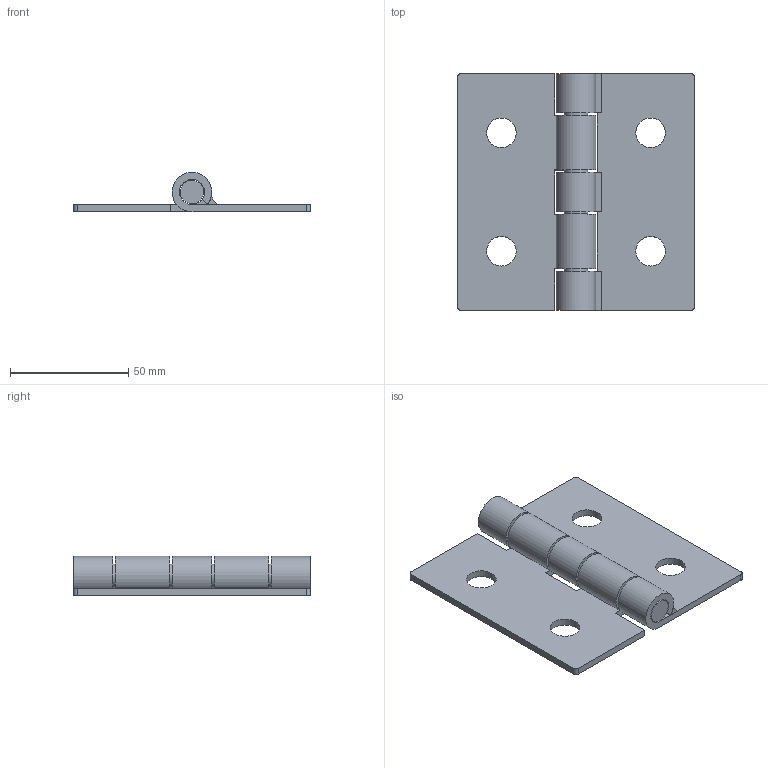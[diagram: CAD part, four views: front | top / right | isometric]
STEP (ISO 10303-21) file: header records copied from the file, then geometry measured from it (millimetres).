
FILE_DESCRIPTION(/* description */ ('Unknown'),/* implementation_level */ '2;1');
FILE_NAME(/* name */ '2003278',/* time_stamp */ '2023-10-11T09:31:22+02:00',/* author */ ('Unknown'),/* organization */ ('Unknown'),/* preprocessor_version */ 'ST-DEVELOPER v16.7',/* originating_system */ 'DEX',/* authorisation */ $);
FILE_SCHEMA (('AUTOMOTIVE_DESIGN {1 0 10303 214 3 1 1}'));
Length unit declared in the file: millimetre
Products named in the file (8): Scharnier; Teil-1; Teil-2; Stift; Scharnier|513|648|513:1; Scharnier_513_648_513:1_oa_0; Scharnier_513_648_513:1_oa_1; Scharnier_513_648_513:1_oa_2
Assembly tree (7 placements, depth 2):
  Scharnier
    Teil-1
    Teil-2
    Stift
    Scharnier|513|648|513:1
    Scharnier_513_648_513:1_oa_0
    Scharnier_513_648_513:1_oa_1
    Scharnier_513_648_513:1_oa_2
Bounding box: 100 x 100 x 16.7 mm (x, y, z)
Volume: 44473.6 mm3; surface area: 31664.9 mm2
Topology: 6 solids, 6 shells, 65 faces, 163 edges, 110 vertices
Faces by surface type: plane 42, cylinder 22, cone 1
Full cylindrical faces by diameter (mm): 10 x1, 12.5 x4
Entity records: 2072 total; most frequent: DIRECTION 343, CARTESIAN_POINT 330, ORIENTED_EDGE 304, EDGE_CURVE 152, AXIS2_PLACEMENT_3D 118, LINE 107, VECTOR 107, VERTEX_POINT 105
